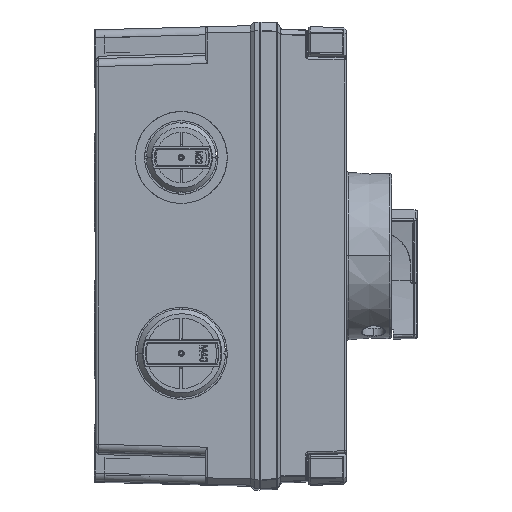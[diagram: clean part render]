
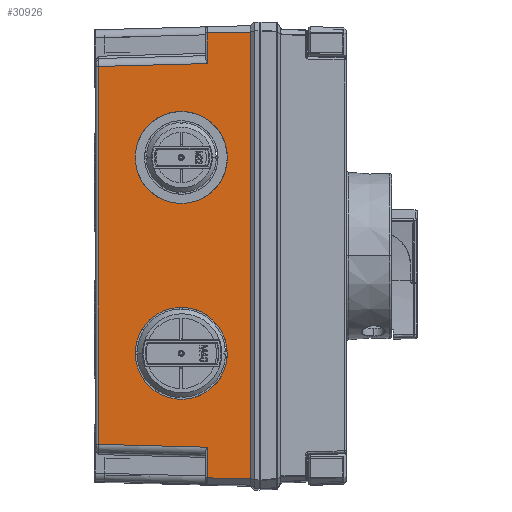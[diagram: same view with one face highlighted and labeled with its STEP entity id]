
A CAD part, top view. The second image highlights one B-rep face of the part: STEP entity #30926.
In plain terms, the highlighted planar face has unit normal (-0.026, 0, 1).
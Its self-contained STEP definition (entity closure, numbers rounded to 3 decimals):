
#490 = VECTOR ( 'NONE', #61604, 1000. ) ;
#3336 = CARTESIAN_POINT ( 'NONE',  ( -14.8, 83.4, 158.133 ) ) ;
#3730 = CARTESIAN_POINT ( 'NONE',  ( -14.8, -2.6, 158.133 ) ) ;
#6032 = ORIENTED_EDGE ( 'NONE', *, *, #25993, .T. ) ;
#6451 = VECTOR ( 'NONE', #161974, 1000. ) ;
#6913 = LINE ( 'NONE', #76239, #63817 ) ;
#7194 = VERTEX_POINT ( 'NONE', #107646 ) ;
#9836 = ORIENTED_EDGE ( 'NONE', *, *, #36546, .T. ) ;
#9980 = CARTESIAN_POINT ( 'NONE',  ( -14.8, 2.6, 158.133 ) ) ;
#10506 = EDGE_CURVE ( 'NONE', #119361, #155573, #6913, .T. ) ;
#11167 = VERTEX_POINT ( 'NONE', #147427 ) ;
#11882 = DIRECTION ( 'NONE',  ( -0.999, -0.026, -0.026 ) ) ;
#16197 = CARTESIAN_POINT ( 'NONE',  ( -14.8, -83.4, 158.133 ) ) ;
#17543 = FACE_OUTER_BOUND ( 'NONE', #55073, .T. ) ;
#19260 = CARTESIAN_POINT ( 'NONE',  ( -23.526, 97.751, 157.905 ) ) ;
#19668 = VERTEX_POINT ( 'NONE', #19260 ) ;
#23559 = ORIENTED_EDGE ( 'NONE', *, *, #154219, .T. ) ;
#25675 = VERTEX_POINT ( 'NONE', #49139 ) ;
#25993 = EDGE_CURVE ( 'NONE', #120265, #19668, #84972, .T. ) ;
#26033 = CARTESIAN_POINT ( 'NONE',  ( -55.2, 43., 157.075 ) ) ;
#28577 = LINE ( 'NONE', #54834, #54565 ) ;
#30926 = ADVANCED_FACE ( 'NONE', ( #131809, #130145, #17543 ), #81039, .T. ) ;
#34135 = VERTEX_POINT ( 'NONE', #125753 ) ;
#34297 = CARTESIAN_POINT ( 'NONE',  ( -4.625, 97.956, 158.4 ) ) ;
#34401 = ORIENTED_EDGE ( 'NONE', *, *, #81652, .T. ) ;
#36546 = EDGE_CURVE ( 'NONE', #155573, #73902, #28577, .T. ) ;
#37056 = ORIENTED_EDGE ( 'NONE', *, *, #91355, .F. ) ;
#40529 = CARTESIAN_POINT ( 'NONE',  ( -23.526, -84.244, 157.905 ) ) ;
#41420 = CARTESIAN_POINT ( 'NONE',  ( -55.2, 43., 157.075 ) ) ;
#42289 = VECTOR ( 'NONE', #110017, 1000. ) ;
#44365 = CARTESIAN_POINT ( 'NONE',  ( -1.244, 97.992, 158.488 ) ) ;
#46092 = EDGE_CURVE ( 'NONE', #57532, #34135, #87983, .T. ) ;
#49139 = CARTESIAN_POINT ( 'NONE',  ( -23.526, -97.751, 157.905 ) ) ;
#49873 = DIRECTION ( 'NONE',  ( 0., -1., 0. ) ) ;
#52606 = CARTESIAN_POINT ( 'NONE',  ( -14.8, -43., 158.133 ) ) ;
#52792 = VERTEX_POINT ( 'NONE', #59125 ) ;
#54009 = LINE ( 'NONE', #145343, #155212 ) ;
#54565 = VECTOR ( 'NONE', #147820, 1000. ) ;
#54834 = CARTESIAN_POINT ( 'NONE',  ( -71.526, 56.997, 156.648 ) ) ;
#55073 = EDGE_LOOP ( 'NONE', ( #9836, #99475, #34401, #23559, #95671, #6032, #56349, #89297 ) ) ;
#56349 = ORIENTED_EDGE ( 'NONE', *, *, #117740, .T. ) ;
#57234 =( BOUNDED_CURVE ( )  B_SPLINE_CURVE ( 3, ( #26033, #74323, #9980, #75156 ),
 .UNSPECIFIED., .F., .T. ) 
 B_SPLINE_CURVE_WITH_KNOTS ( ( 4, 4 ),
 ( 3.142, 6.283 ),
 .UNSPECIFIED. ) 
 CURVE ( )  GEOMETRIC_REPRESENTATION_ITEM ( )  RATIONAL_B_SPLINE_CURVE ( ( 1., 0.333, 0.333, 1. ) ) 
 REPRESENTATION_ITEM ( '' )  );
#57532 = VERTEX_POINT ( 'NONE', #52606 ) ;
#58461 = CARTESIAN_POINT ( 'NONE',  ( -4.625, 97.997, 158.4 ) ) ;
#59125 = CARTESIAN_POINT ( 'NONE',  ( -14.8, 43., 158.133 ) ) ;
#61604 = DIRECTION ( 'NONE',  ( 0.999, -0.026, 0.026 ) ) ;
#62387 = AXIS2_PLACEMENT_3D ( 'NONE', #69183, #145330, #108061 ) ;
#63817 = VECTOR ( 'NONE', #11882, 1000. ) ;
#65360 = CARTESIAN_POINT ( 'NONE',  ( -55.2, -43., 157.075 ) ) ;
#65665 =( BOUNDED_CURVE ( )  B_SPLINE_CURVE ( 3, ( #79537, #3336, #118410, #41420 ),
 .UNSPECIFIED., .F., .F. ) 
 B_SPLINE_CURVE_WITH_KNOTS ( ( 4, 4 ),
 ( 0., 3.142 ),
 .UNSPECIFIED. ) 
 CURVE ( )  GEOMETRIC_REPRESENTATION_ITEM ( )  RATIONAL_B_SPLINE_CURVE ( ( 1., 0.333, 0.333, 1. ) ) 
 REPRESENTATION_ITEM ( '' )  );
#68601 = EDGE_LOOP ( 'NONE', ( #70624, #37056 ) ) ;
#69183 = CARTESIAN_POINT ( 'NONE',  ( -0.8, 56.997, 158.5 ) ) ;
#70624 = ORIENTED_EDGE ( 'NONE', *, *, #46092, .F. ) ;
#73902 = VERTEX_POINT ( 'NONE', #84235 ) ;
#74323 = CARTESIAN_POINT ( 'NONE',  ( -55.2, 2.6, 157.075 ) ) ;
#75156 = CARTESIAN_POINT ( 'NONE',  ( -14.8, 43., 158.133 ) ) ;
#76239 = CARTESIAN_POINT ( 'NONE',  ( -81.409, 82.728, 156.389 ) ) ;
#78411 = CARTESIAN_POINT ( 'NONE',  ( -2.48, -97.979, 158.456 ) ) ;
#79537 = CARTESIAN_POINT ( 'NONE',  ( -14.8, 43., 158.133 ) ) ;
#80770 = CARTESIAN_POINT ( 'NONE',  ( -14.8, -43., 158.133 ) ) ;
#81039 = PLANE ( 'NONE',  #62387 ) ;
#81652 = EDGE_CURVE ( 'NONE', #122125, #25675, #54009, .T. ) ;
#84235 = CARTESIAN_POINT ( 'NONE',  ( -71.526, -82.987, 156.648 ) ) ;
#84972 = LINE ( 'NONE', #44365, #6451 ) ;
#87983 =( BOUNDED_CURVE ( )  B_SPLINE_CURVE ( 3, ( #80770, #3730, #122149, #158595 ),
 .UNSPECIFIED., .F., .F. ) 
 B_SPLINE_CURVE_WITH_KNOTS ( ( 4, 4 ),
 ( 0., 3.142 ),
 .UNSPECIFIED. ) 
 CURVE ( )  GEOMETRIC_REPRESENTATION_ITEM ( )  RATIONAL_B_SPLINE_CURVE ( ( 1., 0.333, 0.333, 1. ) ) 
 REPRESENTATION_ITEM ( '' )  );
#89297 = ORIENTED_EDGE ( 'NONE', *, *, #10506, .T. ) ;
#91355 = EDGE_CURVE ( 'NONE', #34135, #57532, #98447, .T. ) ;
#95671 = ORIENTED_EDGE ( 'NONE', *, *, #118665, .T. ) ;
#96230 = LINE ( 'NONE', #100643, #112458 ) ;
#98447 =( BOUNDED_CURVE ( )  B_SPLINE_CURVE ( 3, ( #65360, #129629, #16197, #116903 ),
 .UNSPECIFIED., .F., .T. ) 
 B_SPLINE_CURVE_WITH_KNOTS ( ( 4, 4 ),
 ( 3.142, 6.283 ),
 .UNSPECIFIED. ) 
 CURVE ( )  GEOMETRIC_REPRESENTATION_ITEM ( )  RATIONAL_B_SPLINE_CURVE ( ( 1., 0.333, 0.333, 1. ) ) 
 REPRESENTATION_ITEM ( '' )  );
#99475 = ORIENTED_EDGE ( 'NONE', *, *, #129968, .T. ) ;
#100643 = CARTESIAN_POINT ( 'NONE',  ( -23.526, 84.219, 157.905 ) ) ;
#102447 = DIRECTION ( 'NONE',  ( 0., -1., 0. ) ) ;
#107646 = CARTESIAN_POINT ( 'NONE',  ( -55.2, 43., 157.075 ) ) ;
#108061 = DIRECTION ( 'NONE',  ( 0., 1., 0. ) ) ;
#110017 = DIRECTION ( 'NONE',  ( 0., 1., 0. ) ) ;
#112129 = ORIENTED_EDGE ( 'NONE', *, *, #136548, .F. ) ;
#112458 = VECTOR ( 'NONE', #49873, 1000. ) ;
#116903 = CARTESIAN_POINT ( 'NONE',  ( -14.8, -43., 158.133 ) ) ;
#117740 = EDGE_CURVE ( 'NONE', #19668, #119361, #96230, .T. ) ;
#118410 = CARTESIAN_POINT ( 'NONE',  ( -55.2, 83.4, 157.075 ) ) ;
#118665 = EDGE_CURVE ( 'NONE', #11167, #120265, #148125, .T. ) ;
#119361 = VERTEX_POINT ( 'NONE', #150229 ) ;
#120265 = VERTEX_POINT ( 'NONE', #34297 ) ;
#122125 = VERTEX_POINT ( 'NONE', #40529 ) ;
#122149 = CARTESIAN_POINT ( 'NONE',  ( -55.2, -2.6, 157.075 ) ) ;
#123101 = VECTOR ( 'NONE', #132516, 1000. ) ;
#125058 = LINE ( 'NONE', #125878, #490 ) ;
#125753 = CARTESIAN_POINT ( 'NONE',  ( -55.2, -43., 157.075 ) ) ;
#125878 = CARTESIAN_POINT ( 'NONE',  ( -19.409, -84.352, 158.013 ) ) ;
#126429 = CARTESIAN_POINT ( 'NONE',  ( -71.526, 82.987, 156.648 ) ) ;
#129629 = CARTESIAN_POINT ( 'NONE',  ( -55.2, -83.4, 157.075 ) ) ;
#129968 = EDGE_CURVE ( 'NONE', #73902, #122125, #125058, .T. ) ;
#130145 = FACE_BOUND ( 'NONE', #149620, .T. ) ;
#131809 = FACE_BOUND ( 'NONE', #68601, .T. ) ;
#132516 = DIRECTION ( 'NONE',  ( 1., -0.011, 0.026 ) ) ;
#136548 = EDGE_CURVE ( 'NONE', #52792, #7194, #65665, .T. ) ;
#138961 = EDGE_CURVE ( 'NONE', #7194, #52792, #57234, .T. ) ;
#145330 = DIRECTION ( 'NONE',  ( -0.026, 0., 1. ) ) ;
#145343 = CARTESIAN_POINT ( 'NONE',  ( -23.526, -97.74, 157.905 ) ) ;
#147427 = CARTESIAN_POINT ( 'NONE',  ( -4.625, -97.956, 158.4 ) ) ;
#147820 = DIRECTION ( 'NONE',  ( 0., -1., 0. ) ) ;
#148125 = LINE ( 'NONE', #58461, #42289 ) ;
#149620 = EDGE_LOOP ( 'NONE', ( #112129, #157704 ) ) ;
#150229 = CARTESIAN_POINT ( 'NONE',  ( -23.526, 84.244, 157.905 ) ) ;
#154219 = EDGE_CURVE ( 'NONE', #25675, #11167, #157916, .T. ) ;
#155212 = VECTOR ( 'NONE', #102447, 1000. ) ;
#155573 = VERTEX_POINT ( 'NONE', #126429 ) ;
#157704 = ORIENTED_EDGE ( 'NONE', *, *, #138961, .F. ) ;
#157916 = LINE ( 'NONE', #78411, #123101 ) ;
#158595 = CARTESIAN_POINT ( 'NONE',  ( -55.2, -43., 157.075 ) ) ;
#161974 = DIRECTION ( 'NONE',  ( -1., -0.011, -0.026 ) ) ;
